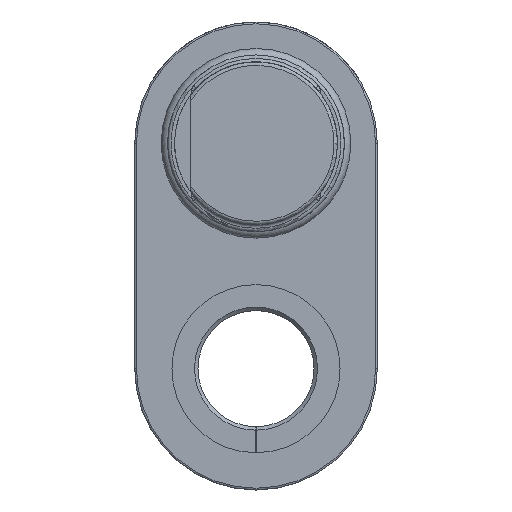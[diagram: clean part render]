
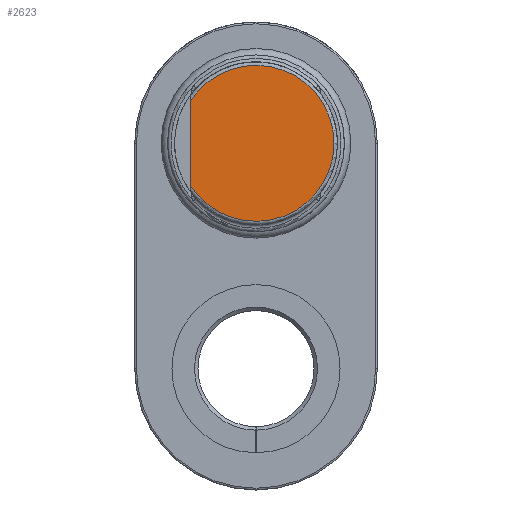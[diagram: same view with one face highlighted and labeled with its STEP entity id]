
A CAD part, left-side view. The second image highlights one B-rep face of the part: STEP entity #2623.
In plain terms, the highlighted planar face has unit normal (-1, 0, 0).
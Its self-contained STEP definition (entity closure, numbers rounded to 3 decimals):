
#1556=PLANE('',#26815);
#2623=ADVANCED_FACE('',(#4509),#1556,.F.);
#4509=FACE_OUTER_BOUND('',#6094,.T.);
#6094=EDGE_LOOP('',(#11697,#11698));
#8137=CIRCLE('',#26814,4.5);
#11697=ORIENTED_EDGE('',*,*,#19765,.F.);
#11698=ORIENTED_EDGE('',*,*,#19766,.T.);
#16957=VERTEX_POINT('',#41735);
#16958=VERTEX_POINT('',#41736);
#19765=EDGE_CURVE('',#16957,#16958,#22664,.T.);
#19766=EDGE_CURVE('',#16957,#16958,#8137,.T.);
#22664=LINE('',#41734,#24640);
#24640=VECTOR('',#31120,1.);
#26814=AXIS2_PLACEMENT_3D('',#41737,#31121,#31122);
#26815=AXIS2_PLACEMENT_3D('',#41738,#31123,#31124);
#31120=DIRECTION('',(0.,0.,1.));
#31121=DIRECTION('',(-1.,0.,0.));
#31122=DIRECTION('',(0.,0.,-1.));
#31123=DIRECTION('',(1.,0.,0.));
#31124=DIRECTION('',(0.,0.,-1.));
#41734=CARTESIAN_POINT('',(-27.3,3.8,0.));
#41735=CARTESIAN_POINT('',(-27.3,3.8,-2.41));
#41736=CARTESIAN_POINT('',(-27.3,3.8,2.41));
#41737=CARTESIAN_POINT('',(-27.3,0.,0.));
#41738=CARTESIAN_POINT('',(-27.3,0.,0.));
